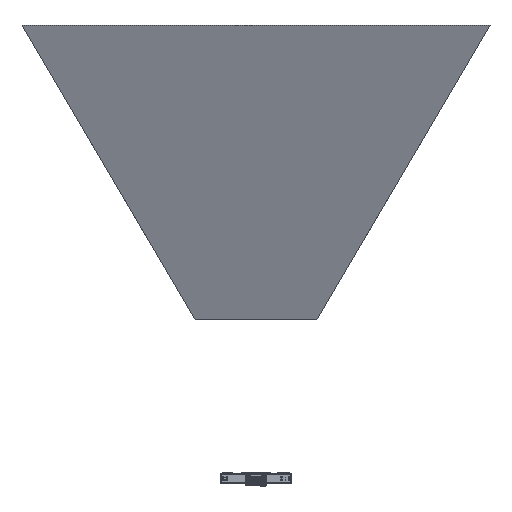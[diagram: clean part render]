
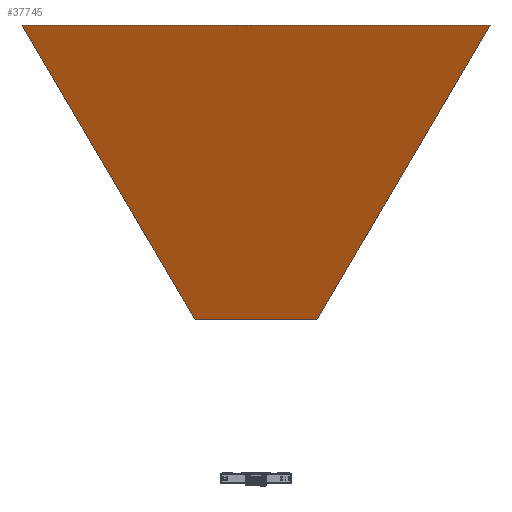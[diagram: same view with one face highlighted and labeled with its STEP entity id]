
A CAD part, left-side view. The second image highlights one B-rep face of the part: STEP entity #37745.
In plain terms, the highlighted free-form (B-spline) face has degree [5, 5] with [6, 6] control points.
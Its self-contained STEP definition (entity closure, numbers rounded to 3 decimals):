
#37632=CARTESIAN_POINT('',(-430.,-435.,1136.5));
#37633=CARTESIAN_POINT('',(-430.,-145.,1136.5));
#37634=CARTESIAN_POINT('',(-430.,145.,1136.5));
#37635=CARTESIAN_POINT('',(-430.,435.,1136.5));
#37637=CARTESIAN_POINT('',(-430.,435.,1136.5));
#37638=CARTESIAN_POINT('',(-703.333,846.667,1836.5));
#37639=CARTESIAN_POINT('',(-976.667,1258.333,2536.5));
#37640=CARTESIAN_POINT('',(-1250.,1670.,3236.5));
#37642=CARTESIAN_POINT('',(-1250.,1670.,3236.5));
#37643=CARTESIAN_POINT('',(-1250.,556.667,3236.5));
#37644=CARTESIAN_POINT('',(-1250.,-556.667,3236.5));
#37645=CARTESIAN_POINT('',(-1250.,-1670.,3236.5));
#37651=DIRECTION('',(-0.319,-0.48,0.817));
#37652=VECTOR('',#37651,2570.53);
#37653=CARTESIAN_POINT('',(-430.,-435.,1136.5));
#37654=LINE('',#37653,#37652);
#37686=CARTESIAN_POINT('',(-430.,-435.,1136.5));
#37687=CARTESIAN_POINT('',(-1250.,-1670.,3236.5));
#37688=VERTEX_POINT('',#37686);
#37689=VERTEX_POINT('',#37687);
#37690=VERTEX_POINT('',#37637);
#37691=VERTEX_POINT('',#37640);
#37698=CARTESIAN_POINT('',(-421.8,-439.556,
1115.5));
#37699=CARTESIAN_POINT('',(-421.8,-265.424,
1115.5));
#37700=CARTESIAN_POINT('',(-421.8,-91.292,
1115.5));
#37701=CARTESIAN_POINT('',(-421.8,82.839,
1115.5));
#37702=CARTESIAN_POINT('',(-421.8,256.971,
1115.5));
#37703=CARTESIAN_POINT('',(-421.8,431.103,
1115.5));
#37704=CARTESIAN_POINT('',(-589.08,-701.574,
1543.9));
#37705=CARTESIAN_POINT('',(-589.08,-423.643,
1543.9));
#37706=CARTESIAN_POINT('',(-589.08,-145.711,
1543.9));
#37707=CARTESIAN_POINT('',(-589.08,132.22,
1543.9));
#37708=CARTESIAN_POINT('',(-589.08,410.151,
1543.9));
#37709=CARTESIAN_POINT('',(-589.08,688.082,
1543.9));
#37710=CARTESIAN_POINT('',(-756.36,-963.591,
1972.3));
#37711=CARTESIAN_POINT('',(-756.36,-581.861,
1972.3));
#37712=CARTESIAN_POINT('',(-756.36,-200.13,
1972.3));
#37713=CARTESIAN_POINT('',(-756.36,181.6,
1972.3));
#37714=CARTESIAN_POINT('',(-756.36,563.33,
1972.3));
#37715=CARTESIAN_POINT('',(-756.36,945.061,
1972.3));
#37716=CARTESIAN_POINT('',(-923.64,-1225.609,
2400.7));
#37717=CARTESIAN_POINT('',(-923.64,-740.079,
2400.7));
#37718=CARTESIAN_POINT('',(-923.64,-254.55,
2400.7));
#37719=CARTESIAN_POINT('',(-923.64,230.98,
2400.7));
#37720=CARTESIAN_POINT('',(-923.64,716.51,
2400.7));
#37721=CARTESIAN_POINT('',(-923.64,1202.039,
2400.7));
#37722=CARTESIAN_POINT('',(-1090.92,-1487.626,
2829.1));
#37723=CARTESIAN_POINT('',(-1090.92,-898.297,
2829.1));
#37724=CARTESIAN_POINT('',(-1090.92,-308.969,
2829.1));
#37725=CARTESIAN_POINT('',(-1090.92,280.36,
2829.1));
#37726=CARTESIAN_POINT('',(-1090.92,869.689,
2829.1));
#37727=CARTESIAN_POINT('',(-1090.92,1459.018,
2829.1));
#37728=CARTESIAN_POINT('',(-1258.2,-1749.644,
3257.5));
#37729=CARTESIAN_POINT('',(-1258.2,-1056.516,
3257.5));
#37730=CARTESIAN_POINT('',(-1258.2,-363.388,
3257.5));
#37731=CARTESIAN_POINT('',(-1258.2,329.741,
3257.5));
#37732=CARTESIAN_POINT('',(-1258.2,1022.869,
3257.5));
#37733=CARTESIAN_POINT('',(-1258.2,1715.997,
3257.5));
#37734=B_SPLINE_SURFACE_WITH_KNOTS('',5,5,((#37698,#37699,#37700,#37701,#37702,
#37703),(#37704,#37705,#37706,#37707,#37708,#37709),(#37710,#37711,#37712,
#37713,#37714,#37715),(#37716,#37717,#37718,#37719,#37720,#37721),(#37722,
#37723,#37724,#37725,#37726,#37727),(#37728,#37729,#37730,#37731,#37732,
#37733)),.UNSPECIFIED.,.F.,.F.,.F.,(6,6),(6,6),(-0.01,
1.01),(-0.005,0.271),.UNSPECIFIED.);
#37736=ORIENTED_EDGE('',*,*,#37735,.F.);
#37738=ORIENTED_EDGE('',*,*,#37737,.T.);
#37740=ORIENTED_EDGE('',*,*,#37739,.T.);
#37742=ORIENTED_EDGE('',*,*,#37741,.T.);
#37743=EDGE_LOOP('',(#37736,#37738,#37740,#37742));
#37744=FACE_OUTER_BOUND('',#37743,.F.);
#37745=ADVANCED_FACE('',(#37744),#37734,.T.);
#37636=B_SPLINE_CURVE_WITH_KNOTS('',3,(#37632,#37633,#37634,#37635),
.UNSPECIFIED.,.F.,.F.,(4,4),(0.,1.),.UNSPECIFIED.);
#37641=B_SPLINE_CURVE_WITH_KNOTS('',3,(#37637,#37638,#37639,#37640),
.UNSPECIFIED.,.F.,.F.,(4,4),(0.,1.),.UNSPECIFIED.);
#37646=B_SPLINE_CURVE_WITH_KNOTS('',3,(#37642,#37643,#37644,#37645),
.UNSPECIFIED.,.F.,.F.,(4,4),(0.,1.),.UNSPECIFIED.);
#37735=EDGE_CURVE('',#37688,#37689,#37654,.T.);
#37737=EDGE_CURVE('',#37688,#37690,#37636,.T.);
#37739=EDGE_CURVE('',#37690,#37691,#37641,.T.);
#37741=EDGE_CURVE('',#37691,#37689,#37646,.T.);
